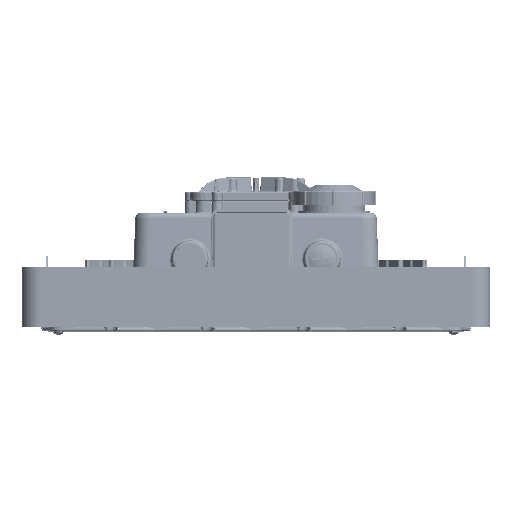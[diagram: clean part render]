
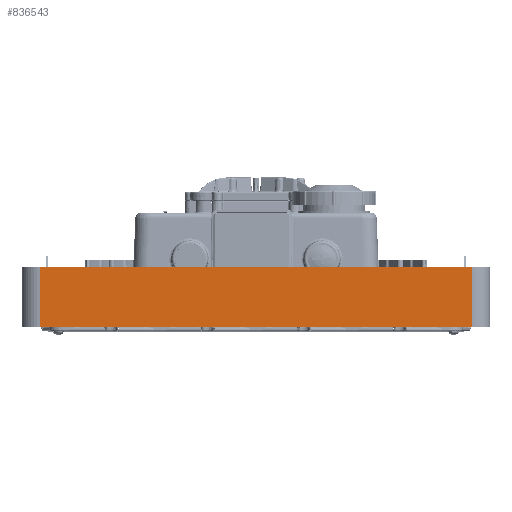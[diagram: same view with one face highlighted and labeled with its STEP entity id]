
A CAD part, top view. The second image highlights one B-rep face of the part: STEP entity #836543.
In plain terms, the highlighted planar face has unit normal (0, 0, 1).
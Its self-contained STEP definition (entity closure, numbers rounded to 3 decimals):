
#836256=DIRECTION('',(0.,1.,0.));
#836257=VECTOR('',#836256,2.5);
#836258=CARTESIAN_POINT('',(9.,-1.955,23.563));
#836259=LINE('',#836258,#836257);
#836260=DIRECTION('',(-1.,0.,0.));
#836261=VECTOR('',#836260,9.);
#836262=CARTESIAN_POINT('',(9.,-1.955,23.563));
#836263=LINE('',#836262,#836261);
#836264=DIRECTION('',(-1.,0.,0.));
#836265=VECTOR('',#836264,9.);
#836266=CARTESIAN_POINT('',(0.,-1.955,23.563));
#836267=LINE('',#836266,#836265);
#836268=DIRECTION('',(0.,1.,0.));
#836269=VECTOR('',#836268,2.5);
#836270=CARTESIAN_POINT('',(-9.,-1.955,23.563));
#836271=LINE('',#836270,#836269);
#836272=DIRECTION('',(1.,0.,0.));
#836273=VECTOR('',#836272,9.);
#836274=CARTESIAN_POINT('',(-9.,0.545,23.563));
#836275=LINE('',#836274,#836273);
#836276=DIRECTION('',(1.,0.,0.));
#836277=VECTOR('',#836276,9.);
#836278=CARTESIAN_POINT('',(0.,0.545,23.563));
#836279=LINE('',#836278,#836277);
#836468=CARTESIAN_POINT('',(0.,-1.955,23.563));
#836470=VERTEX_POINT('',#836468);
#836476=CARTESIAN_POINT('',(0.,0.545,23.563));
#836478=VERTEX_POINT('',#836476);
#836488=CARTESIAN_POINT('',(-9.,-1.955,23.563));
#836489=VERTEX_POINT('',#836488);
#836490=CARTESIAN_POINT('',(-9.,0.545,23.563));
#836491=VERTEX_POINT('',#836490);
#836513=CARTESIAN_POINT('',(9.,-1.955,23.563));
#836515=VERTEX_POINT('',#836513);
#836521=CARTESIAN_POINT('',(9.,0.545,23.563));
#836523=VERTEX_POINT('',#836521);
#836524=CARTESIAN_POINT('',(0.,-0.705,23.563));
#836525=DIRECTION('',(0.,0.,-1.));
#836526=DIRECTION('',(-1.,0.,0.));
#836527=AXIS2_PLACEMENT_3D('',#836524,#836525,#836526);
#836528=PLANE('',#836527);
#836530=ORIENTED_EDGE('',*,*,#836529,.F.);
#836532=ORIENTED_EDGE('',*,*,#836531,.T.);
#836534=ORIENTED_EDGE('',*,*,#836533,.T.);
#836536=ORIENTED_EDGE('',*,*,#836535,.T.);
#836538=ORIENTED_EDGE('',*,*,#836537,.T.);
#836540=ORIENTED_EDGE('',*,*,#836539,.T.);
#836541=EDGE_LOOP('',(#836530,#836532,#836534,#836536,#836538,#836540));
#836542=FACE_OUTER_BOUND('',#836541,.F.);
#836543=ADVANCED_FACE('',(#836542),#836528,.F.);
#836529=EDGE_CURVE('',#836515,#836523,#836259,.T.);
#836531=EDGE_CURVE('',#836515,#836470,#836263,.T.);
#836533=EDGE_CURVE('',#836470,#836489,#836267,.T.);
#836535=EDGE_CURVE('',#836489,#836491,#836271,.T.);
#836537=EDGE_CURVE('',#836491,#836478,#836275,.T.);
#836539=EDGE_CURVE('',#836478,#836523,#836279,.T.);
